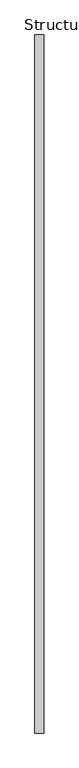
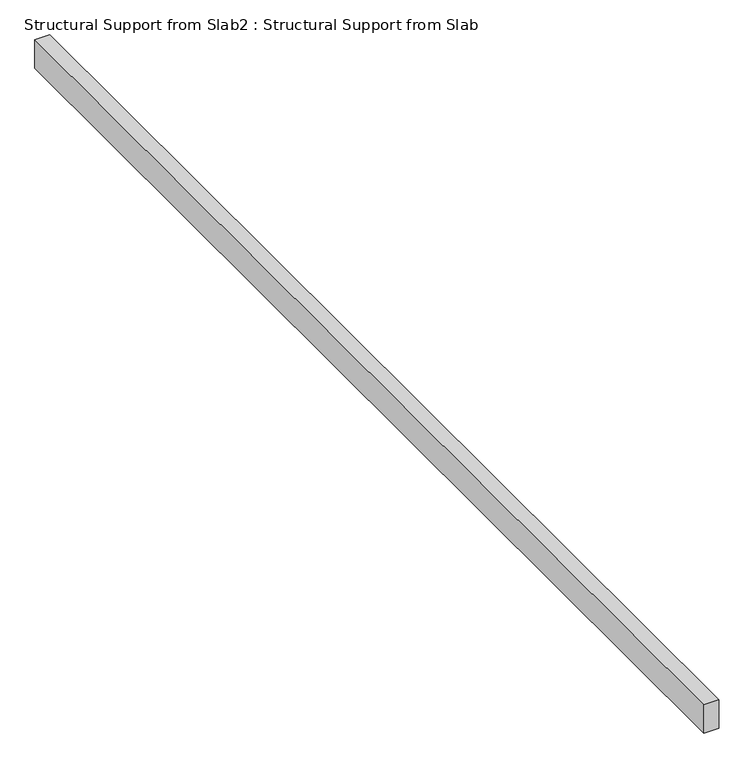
"""IFC4 building model written with IfcOpenShell, lengths in millimetres: beam geometry, Structural Support from Slab2 : Structural Support from Slab."""

from ifc_helpers import new_model, si_unit, frame, origin, place, context, project, spatial, polyline, outline, extrude, source, transform, mapped, element, save


def structural_support_from_slab2_structural_support_from_slab_a1e1174d(model_context):
    return source(origin(), model_context, "Body", "SweptSolid", [
        extrude(outline(polyline([(-10075.1639562, 156.8566481), (-10227.5639562, 156.8566481), (-10227.5639562, 11995.9222731), (-10075.1639562, 11995.9222731), (-10075.1639562, 156.8566481)])), frame((0.0, 0.0, 4114.8), z_axis=(0.0, 0.0, 1.0), x_axis=(1.0, 0.0, 0.0)), (0.0, 0.0, 1.0), 304.8),
    ])


if __name__ == "__main__":
    model = new_model("IFC4")
    model_context = context("Model", 3, world=origin())
    ifc_project = project(units=[si_unit("LENGTHUNIT", "METRE", prefix="MILLI")], contexts=[model_context])
    site = spatial("IfcSite", under=ifc_project)
    building = spatial("IfcBuilding", under=site)
    placement = place(None, origin())
    structural_support_from_slab2_structural_support_from_slab_shape = structural_support_from_slab2_structural_support_from_slab_a1e1174d(model_context)
    element("IfcBeam", 1, ObjectType="Structural Support from Slab2 : Structural Support from Slab", at=placement, inside=building, context=model_context, shape_type="MappedRepresentation", body=[
        mapped(structural_support_from_slab2_structural_support_from_slab_shape, transform((0.0, 0.0, 0.0), x_axis=(1.0, 0.0, 0.0), y_axis=(0.0, 1.0, 0.0), z_axis=(0.0, 0.0, 1.0))),
    ])
    save(model, "model.ifc")
